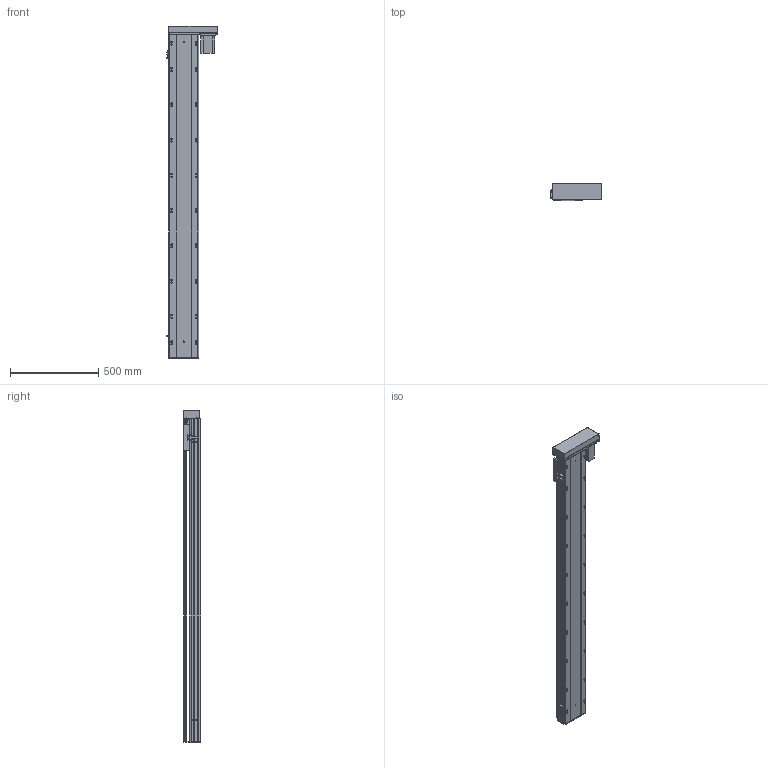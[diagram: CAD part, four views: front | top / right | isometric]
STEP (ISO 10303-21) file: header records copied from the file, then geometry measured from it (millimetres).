
FILE_DESCRIPTION (( 'STEP AP203' ), '1' );
FILE_NAME ('Y170-D10-S1550-BR-P750W.STEP', '2020-01-21T12:55:47', ( '微软用户' ), ( '微软中国' ), 'SwSTEP 2.0', 'SolidWorks 2017', '' );
FILE_SCHEMA (( 'CONFIG_CONTROL_DESIGN' ));
Length unit declared in the file: millimetre
Products named in the file (12): EGH20賑輸_蕼偞; Y雄赽釱-耜蚾; Y170-陔遴奻裔-BR; Y-BL.BR-俋欶; Y--BL蟀諉啣-陔遴-; Y170耜裔--準---; YD-Y100-135-新外置传感挡片(通用）; 170--掛极-BR; Y100-135俋离換覜ん; Y170-BL-P750W楊擘啣; Y170-D10-S1550-BR-P750W; 侂狟750W
Assembly tree (14 placements, depth 2):
  Y170-D10-S1550-BR-P750W
    Y170耜裔--準---
    170--掛极-BR
    Y170-BL-P750W楊擘啣
    侂狟750W
    EGH20賑輸_蕼偞  x2
    Y雄赽釱-耜蚾
    Y170-陔遴奻裔-BR
    Y-BL.BR-俋欶
    Y--BL蟀諉啣-陔遴-
    YD-Y100-135-新外置传感挡片(通用）
    Y100-135俋离換覜ん  x3
Bounding box: 289 x 97 x 1883.5 mm (x, y, z)
Volume: 8314035.6 mm3; surface area: 2945568 mm2
Topology: 14 solids, 14 shells, 969 faces, 2786 edges, 1840 vertices
Faces by surface type: cylinder 510, plane 443, cone 16
Entity records: 31370 total; most frequent: CARTESIAN_POINT 5758, DIRECTION 5148, ORIENTED_EDGE 5068, EDGE_CURVE 2534, AXIS2_PLACEMENT_3D 1842, VERTEX_POINT 1684, LINE 1464, VECTOR 1464
